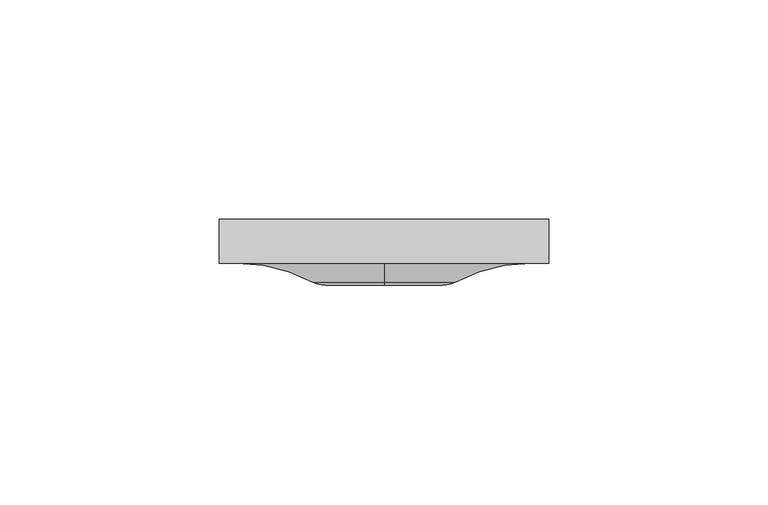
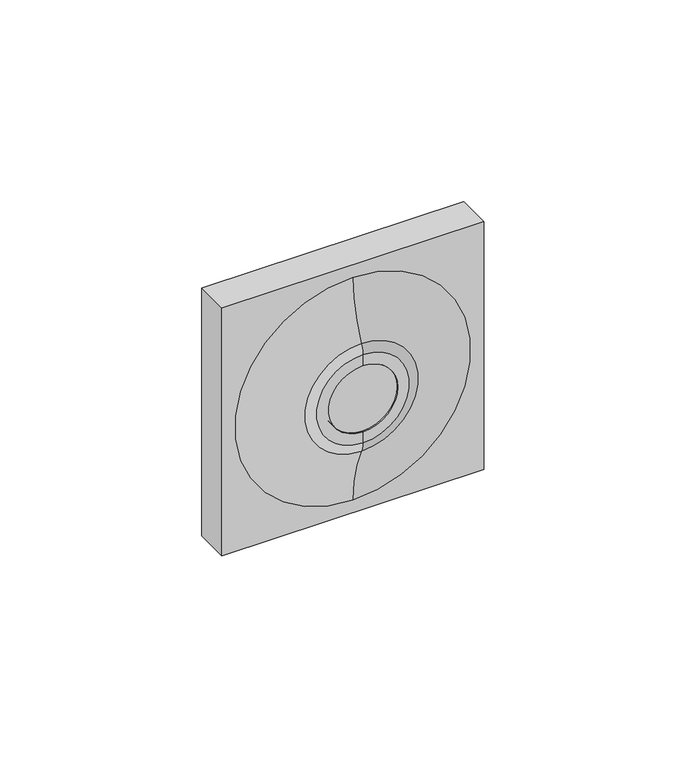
"""IFC4 building model written with IfcOpenShell, lengths in millimetres: flow terminal geometry, Plumbing Fixtures_Sensor_Thornthwaite_Rada Ligature Resistant Sensor : LR Ligature Resistant Sensor - 1640.002."""

from ifc_helpers import new_model, si_unit, point, frame, frame_2d, origin, place, context, project, spatial, polyline, circle_curve, ellipse_curve, trimmed, segment, composite_curve, outline, extrude, source, transform, mapped, element, save
from ifc_brep_helpers import plane_surface, revolved_surface, advanced_brep


def flow_terminal_8cce0363(model_context):
    return source(origin(), model_context, "Body", "SolidModel", [
        advanced_brep(
        [(37.5, -5.0, 875.0), (-37.5, -5.0, 875.0), (-37.5, -5.0, 800.0), (37.5, -5.0, 800.0), (0.0, -5.0, 803.7828681), (0.0, -5.0, 871.2171319), (37.5, 5.0, 875.0), (37.5, 5.0, 800.0), (-37.5, 5.0, 800.0), (-37.5, 5.0, 875.0), (-10.0, 5.0, 837.5), (10.0, 5.0, 837.5), (10.0, -3.0, 837.5), (10.0, -5.0, 837.5), (0.0, -5.0, 847.5), (-10.0, -5.0, 837.5), (-10.0, -3.0, 837.5), (0.0, -5.0, 827.5), (0.0, -10.0, 847.5), (0.0, -10.0, 827.5), (0.0, -9.2747127, 821.1786519), (0.0, -9.2747127, 853.8213481), (0.0, -10.0, 824.1301814), (0.0, -10.0, 850.8698186)],
        [
            (0, 1),
            (1, 2),
            (2, 3),
            (3, 0),
            (4, 5, circle_curve(frame((0.0, -5.0, 837.5), z_axis=(0.0, 1.0, 0.0), x_axis=(0.0, 0.0, 1.0)), 33.7171319)),
            (5, 4, circle_curve(frame((0.0, -5.0, 837.5), z_axis=(0.0, 1.0, 0.0), x_axis=(0.0, 0.0, 1.0)), 33.7171319)),
            (6, 7),
            (7, 8),
            (8, 9),
            (9, 6),
            (10, 11, circle_curve(frame((0.0, 5.0, 837.5), z_axis=(0.0, -1.0, 0.0), x_axis=(1.0, 0.0, 0.0)), 10.0)),
            (11, 10, circle_curve(frame((0.0, 5.0, 837.5), z_axis=(0.0, -1.0, 0.0), x_axis=(1.0, 0.0, 0.0)), 10.0)),
            (0, 6),
            (9, 1),
            (8, 2),
            (7, 3),
            (11, 12),
            (12, 13),
            (13, 14, circle_curve(frame((0.0, -5.0, 837.5), z_axis=(0.0, -1.0, 0.0), x_axis=(1.0, 0.0, 0.0)), 10.0)),
            (14, 15, circle_curve(frame((0.0, -5.0, 837.5), z_axis=(0.0, -1.0, 0.0), x_axis=(1.0, 0.0, 0.0)), 10.0)),
            (15, 16),
            (16, 10),
            (15, 17, circle_curve(frame((0.0, -5.0, 837.5), z_axis=(0.0, -1.0, 0.0), x_axis=(1.0, 0.0, 0.0)), 10.0)),
            (17, 13, circle_curve(frame((0.0, -5.0, 837.5), z_axis=(0.0, -1.0, 0.0), x_axis=(1.0, 0.0, 0.0)), 10.0)),
            (18, 19, circle_curve(frame((0.0, -10.0, 837.5), z_axis=(0.0, -1.0, 0.0), x_axis=(0.0, 0.0, 1.0)), 10.0)),
            (19, 17),
            (14, 18),
            (19, 18, circle_curve(frame((0.0, -10.0, 837.5), z_axis=(0.0, -1.0, 0.0), x_axis=(0.0, 0.0, 1.0)), 10.0)),
            (20, 21, circle_curve(frame((0.0, -9.2747127, 837.5), z_axis=(0.0, 1.0, 0.0), x_axis=(0.0, 0.0, 1.0)), 16.3213481)),
            (21, 5, circle_curve(frame((0.0, -42.5331027, 871.2171319), z_axis=(1.0, 0.0, 0.0), x_axis=(0.0, 1.0, 0.0)), 37.5331027)),
            (4, 20, circle_curve(frame((0.0, -42.5331027, 803.7828681), z_axis=(1.0, 0.0, 0.0), x_axis=(0.0, 1.0, 0.0)), 37.5331027)),
            (21, 20, circle_curve(frame((0.0, -9.2747127, 837.5), z_axis=(0.0, 1.0, 0.0), x_axis=(0.0, 0.0, 1.0)), 16.3213481)),
            (20, 22, circle_curve(frame((0.0, -3.6317868, 824.1301814), z_axis=(-1.0, 0.0, 0.0), x_axis=(0.0, 1.0, 0.0)), 6.3682132)),
            (22, 23, circle_curve(frame((0.0, -10.0, 837.5), z_axis=(0.0, 1.0, 0.0), x_axis=(0.0, 0.0, 1.0)), 13.3698186)),
            (23, 21, circle_curve(frame((0.0, -3.6317868, 850.8698186), z_axis=(-1.0, 0.0, 0.0), x_axis=(0.0, 1.0, 0.0)), 6.3682132)),
            (23, 22, circle_curve(frame((0.0, -10.0, 837.5), z_axis=(0.0, 1.0, 0.0), x_axis=(0.0, 0.0, 1.0)), 13.3698186)),
            (18, 23),
            (22, 19),
        ],
        [
            plane_surface(frame((-37.5, -5.0, 875.0), z_axis=(0.0, -1.0, 0.0), x_axis=(-1.0, 0.0, 0.0))),
            plane_surface(frame((-37.5, 5.0, 875.0), z_axis=(0.0, 1.0, 0.0), x_axis=(1.0, 0.0, 0.0))),
            plane_surface(frame((37.5, -5.0, 875.0), z_axis=(0.0, 0.0, 1.0), x_axis=(0.0, 1.0, 0.0))),
            plane_surface(frame((-37.5, -5.0, 875.0), z_axis=(-1.0, 0.0, 0.0), x_axis=(0.0, 1.0, 0.0))),
            plane_surface(frame((-37.5, -5.0, 800.0), z_axis=(0.0, 0.0, -1.0), x_axis=(0.0, 1.0, 0.0))),
            plane_surface(frame((37.5, -5.0, 800.0), z_axis=(1.0, 0.0, 0.0), x_axis=(0.0, 1.0, 0.0))),
            revolved_surface(polyline([(10.0, 5.0, 837.5), (10.0, -5.0, 837.5)]), (0.0, 0.0, 837.5), (0.0, 1.0, 0.0)),
            revolved_surface(polyline([(0.0, -10.0, 847.5), (0.0, -5.0, 847.5)]), (0.0, 162.8080154, 837.5), (0.0, -1.0, 0.0)),
            revolved_surface(trimmed(ellipse_curve(frame((0.0, -42.5331027, 871.2171319), z_axis=(-1.0, 0.0, 0.0), x_axis=(0.0, 1.0, 0.0)), 37.5331027, 37.5331027), [point((0.0, -5.0, 871.2171319))], [point((0.0, -9.2747127, 853.8213481))], True, "CARTESIAN"), (0.0, 162.8080154, 837.5), (0.0, -1.0, 0.0)),
            revolved_surface(trimmed(ellipse_curve(frame((0.0, -3.6317868, 850.8698186), z_axis=(1.0, 0.0, 0.0), x_axis=(0.0, 1.0, 0.0)), 6.3682132, 6.3682132), [point((0.0, -9.2747127, 853.8213481))], [point((0.0, -10.0, 850.8698186))], True, "CARTESIAN"), (0.0, 162.8080154, 837.5), (0.0, -1.0, 0.0)),
            plane_surface(frame((0.0, -10.0, 837.5), z_axis=(0.0, -1.0, 0.0), x_axis=(0.0, 0.0, 1.0))),
        ],
        [
            (0, [[1, 2, 3, 4], [5, 6]]),
            (1, [[7, 8, 9, 10], [11, 12]]),
            (2, [[-1, 13, -10, 14]]),
            (3, [[-2, -14, -9, 15]]),
            (4, [[-3, -15, -8, 16]]),
            (5, [[-4, -16, -7, -13]]),
            (6, [[-12, 17, 18, 19, 20, 21, 22]]),
            (6, [[-11, -22, -21, 23, 24, -18, -17]]),
            (7, [[25, 26, -23, -20, 27]]),
            (7, [[28, -27, -19, -24, -26]]),
            (8, [[29, 30, -5, 31]]),
            (8, [[-30, 32, -31, -6]]),
            (9, [[-29, 33, 34, 35]]),
            (9, [[-32, -35, 36, -33]]),
            (10, [[-25, 37, -34, 38]]),
            (10, [[-28, -38, -36, -37]]),
        ],
    ),
        extrude(outline(composite_curve([segment(trimmed(circle_curve(frame_2d((837.5, 0.0)), 10.0), [point((837.5, 10.0))], [point((837.5, -10.0))], False, "CARTESIAN"), True, "CONTINUOUS"), segment(trimmed(circle_curve(frame_2d((837.5, 0.0)), 10.0), [point((837.5, -10.0))], [point((837.5, 10.0))], False, "CARTESIAN"), True, "CONTINUOUS")], self_intersect=False)), frame((0.0, -10.0, 0.0), z_axis=(0.0, 1.0, 0.0), x_axis=(0.0, 0.0, 1.0)), (0.0, 0.0, 1.0), 15.0),
    ])


if __name__ == "__main__":
    model = new_model("IFC4")
    model_context = context("Model", 3, world=origin())
    ifc_project = project(units=[si_unit("LENGTHUNIT", "METRE", prefix="MILLI")], contexts=[model_context])
    site = spatial("IfcSite", under=ifc_project)
    building = spatial("IfcBuilding", under=site)
    placement = place(None, origin())
    flow_terminal_shape = flow_terminal_8cce0363(model_context)
    element("IfcFlowTerminal", 1, ObjectType="Plumbing Fixtures_Sensor_Thornthwaite_Rada Ligature Resistant Sensor : LR Ligature Resistant Sensor - 1640.002", at=placement, inside=building, context=model_context, shape_type="MappedRepresentation", body=[
        mapped(flow_terminal_shape, transform((0.0, 0.0, 0.0), x_axis=(1.0, 0.0, 0.0), y_axis=(0.0, 1.0, 0.0), z_axis=(0.0, 0.0, 1.0))),
    ])
    save(model, "model.ifc")
